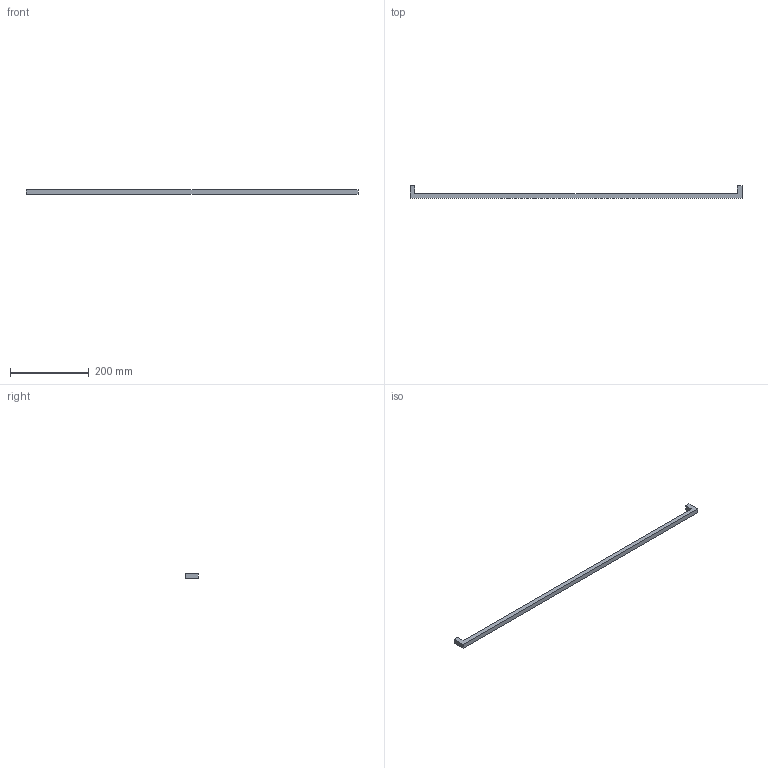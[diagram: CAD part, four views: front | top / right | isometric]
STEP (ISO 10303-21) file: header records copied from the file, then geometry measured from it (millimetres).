
FILE_DESCRIPTION( ( 'STEP AP214' ), '1' );
FILE_NAME( 'C:/Users/kulkarni/Desktop/Apurva/2015/Prodecor_2016/Cadfiles/same as files/Anzio/9207354.stp', ' ', ( ' ' ), ( ' ' ), 'PSStep 15.0.47', 'PARTsolutions', ' ' );
FILE_SCHEMA( ( 'AUTOMOTIVE_DESIGN { 1 0 10303 214 1 1 1 1 }' ) );
Length unit declared in the file: millimetre
Products named in the file (1): _9207354
Bounding box: 844 x 32 x 12 mm (x, y, z)
Volume: 127044.7 mm3; surface area: 42971.3 mm2
Topology: 1 solids, 1 shells, 14 faces, 30 edges, 20 vertices
Faces by surface type: plane 12, cylinder 2
Full cylindrical faces by diameter (mm): 4 x2
Entity records: 496 total; most frequent: CARTESIAN_POINT 63, DIRECTION 62, ORIENTED_EDGE 56, EDGE_CURVE 28, LINE 24, VECTOR 24, VERTEX_POINT 20, AXIS2_PLACEMENT_3D 19
